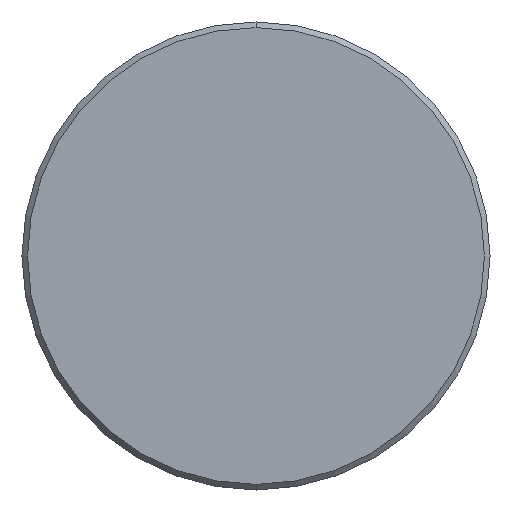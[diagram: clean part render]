
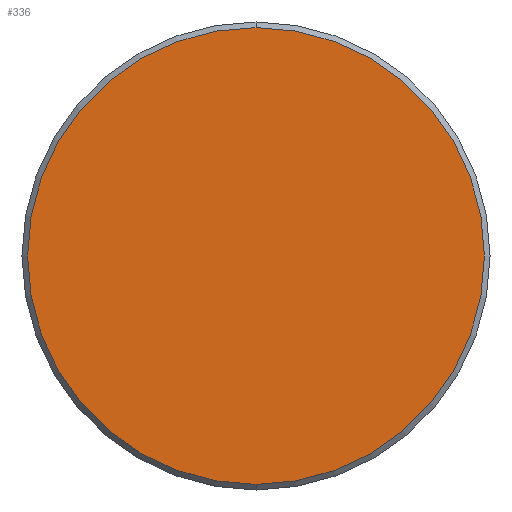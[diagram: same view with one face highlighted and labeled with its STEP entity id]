
A CAD part, front view. The second image highlights one B-rep face of the part: STEP entity #336.
In plain terms, the highlighted planar face has unit normal (0, -1, 0).
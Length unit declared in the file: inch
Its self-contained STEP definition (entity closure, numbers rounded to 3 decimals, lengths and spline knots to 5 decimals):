
#3 = AXIS2_PLACEMENT_3D ( 'NONE', #393, #444, #136 ) ;
#97 = DIRECTION ( 'NONE',  ( 0., 0., 1. ) ) ;
#128 = CARTESIAN_POINT ( 'NONE',  ( 0., 0., 0.61 ) ) ;
#136 = DIRECTION ( 'NONE',  ( 0., 0., 1. ) ) ;
#149 = AXIS2_PLACEMENT_3D ( 'NONE', #404, #406, #97 ) ;
#160 = FACE_OUTER_BOUND ( 'NONE', #242, .T. ) ;
#188 = VERTEX_POINT ( 'NONE', #638 ) ;
#242 = EDGE_LOOP ( 'NONE', ( #337, #329 ) ) ;
#269 = VERTEX_POINT ( 'NONE', #128 ) ;
#309 = CARTESIAN_POINT ( 'NONE',  ( 0., 0., 0. ) ) ;
#329 = ORIENTED_EDGE ( 'NONE', *, *, #501, .T. ) ;
#336 = ADVANCED_FACE ( 'NONE', ( #160 ), #441, .F. ) ;
#337 = ORIENTED_EDGE ( 'NONE', *, *, #422, .T. ) ;
#348 = CIRCLE ( 'NONE', #149, 0.61 ) ;
#393 = CARTESIAN_POINT ( 'NONE',  ( 0., 0., 0. ) ) ;
#404 = CARTESIAN_POINT ( 'NONE',  ( 0., 0., 0. ) ) ;
#406 = DIRECTION ( 'NONE',  ( 0., -1., 0. ) ) ;
#412 = DIRECTION ( 'NONE',  ( 0., 0., 1. ) ) ;
#422 = EDGE_CURVE ( 'NONE', #269, #188, #348, .T. ) ;
#441 = PLANE ( 'NONE',  #3 ) ;
#444 = DIRECTION ( 'NONE',  ( 0., 1., 0. ) ) ;
#501 = EDGE_CURVE ( 'NONE', #188, #269, #505, .T. ) ;
#505 = CIRCLE ( 'NONE', #521, 0.61 ) ;
#521 = AXIS2_PLACEMENT_3D ( 'NONE', #309, #564, #412 ) ;
#564 = DIRECTION ( 'NONE',  ( 0., -1., 0. ) ) ;
#638 = CARTESIAN_POINT ( 'NONE',  ( 0., 0., -0.61 ) ) ;
